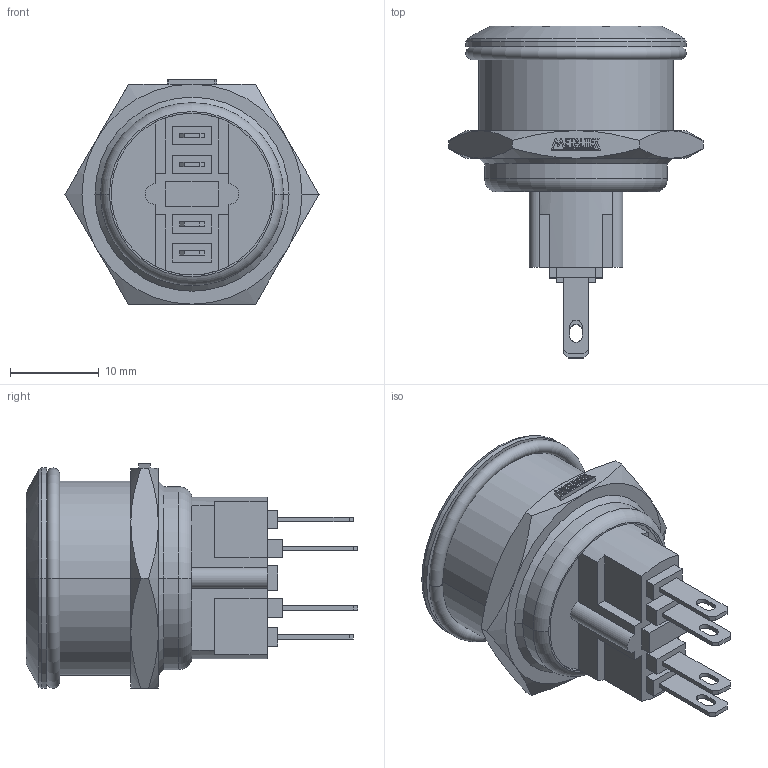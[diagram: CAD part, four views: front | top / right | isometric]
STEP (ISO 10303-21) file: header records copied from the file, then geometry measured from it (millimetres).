
FILE_DESCRIPTION (( 'STEP AP203' ), '1' );
FILE_NAME ('AV22FC.STEP', '2018-01-17T14:28:43', ( '' ), ( '' ), 'SwSTEP 2.0', 'SolidWorks 2012', '' );
FILE_SCHEMA (( 'CONFIG_CONTROL_DESIGN' ));
Length unit declared in the file: millimetre
Products named in the file (3): AV22FC; METALTEX 5,62
Assembly tree (2 placements, depth 2):
  AV22FC
    AV22FC
    METALTEX 5,62
Bounding box: 28.6 x 37.35 x 25.28 mm (x, y, z)
Volume: 8639.2 mm3; surface area: 3620 mm2
Topology: 8 solids, 8 shells, 241 faces, 602 edges, 392 vertices
Faces by surface type: plane 189, cylinder 28, cone 18, torus 4, sphere 2
Entity records: 7495 total; most frequent: CARTESIAN_POINT 1384, ORIENTED_EDGE 1204, DIRECTION 1160, EDGE_CURVE 602, LINE 488, VECTOR 488, VERTEX_POINT 392, AXIS2_PLACEMENT_3D 336
